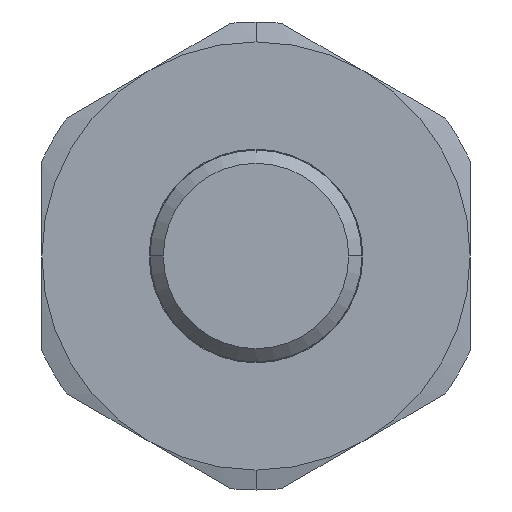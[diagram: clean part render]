
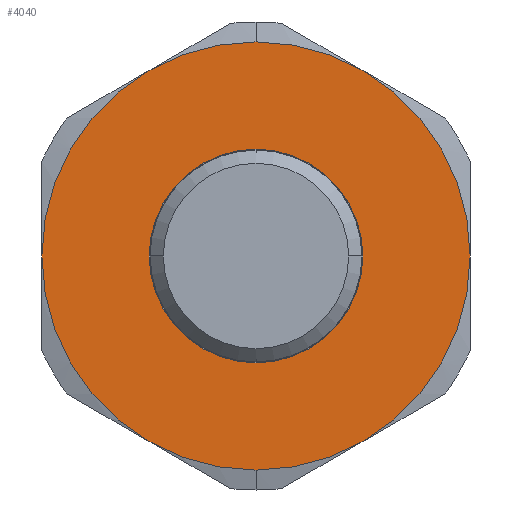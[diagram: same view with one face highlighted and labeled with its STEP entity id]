
A CAD part, left-side view. The second image highlights one B-rep face of the part: STEP entity #4040.
In plain terms, the highlighted planar face has unit normal (-1, 0, 0).
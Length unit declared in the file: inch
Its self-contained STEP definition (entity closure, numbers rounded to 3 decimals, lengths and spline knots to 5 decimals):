
#142=CARTESIAN_POINT('',(7.48906,6.74113,0.));
#143=VERTEX_POINT('',#142);
#152=CARTESIAN_POINT('',(7.48906,7.24013,0.));
#153=VERTEX_POINT('',#152);
#154=CARTESIAN_POINT('',(7.48906,6.99063,0.));
#155=DIRECTION('',(-1.0,0.0,0.0));
#156=DIRECTION('',(0.0,-1.0,0.0));
#157=AXIS2_PLACEMENT_3D('',#154,#155,#156);
#158=CIRCLE('',#157,0.2495);
#159=EDGE_CURVE('',#143,#153,#158,.T.);
#577=CARTESIAN_POINT('',(7.48906,6.99063,-0.5));
#578=VERTEX_POINT('',#577);
#585=CARTESIAN_POINT('',(7.48906,7.24063,-0.43301));
#586=VERTEX_POINT('',#585);
#587=CARTESIAN_POINT('',(7.48906,6.99063,0.));
#588=DIRECTION('',(-1.0,0.0,0.0));
#589=DIRECTION('',(0.0,0.0,-1.0));
#590=AXIS2_PLACEMENT_3D('',#587,#588,#589);
#591=CIRCLE('',#590,0.5);
#592=EDGE_CURVE('',#586,#578,#591,.T.);
#624=CARTESIAN_POINT('',(7.48906,6.99063,0.5));
#625=VERTEX_POINT('',#624);
#633=CARTESIAN_POINT('',(7.48906,7.24063,0.43301));
#634=VERTEX_POINT('',#633);
#648=CARTESIAN_POINT('',(7.48906,6.99063,0.));
#649=DIRECTION('',(-1.0,0.0,0.0));
#650=DIRECTION('',(0.0,0.0,-1.0));
#651=AXIS2_PLACEMENT_3D('',#648,#649,#650);
#652=CIRCLE('',#651,0.5);
#653=EDGE_CURVE('',#625,#634,#652,.T.);
#3971=CARTESIAN_POINT('',(7.48906,6.99063,0.));
#3972=DIRECTION('',(-1.0,0.0,0.0));
#3973=DIRECTION('',(0.0,0.0,1.0));
#3974=AXIS2_PLACEMENT_3D('',#3971,#3972,#3973);
#3975=PLANE('',#3974);
#3976=CARTESIAN_POINT('',(7.48906,7.49063,0.));
#3977=VERTEX_POINT('',#3976);
#3978=CARTESIAN_POINT('',(7.48906,6.99063,0.));
#3979=DIRECTION('',(-1.0,0.0,0.0));
#3980=DIRECTION('',(0.0,0.0,-1.0));
#3981=AXIS2_PLACEMENT_3D('',#3978,#3979,#3980);
#3982=CIRCLE('',#3981,0.5);
#3983=EDGE_CURVE('',#634,#3977,#3982,.T.);
#3984=ORIENTED_EDGE('',*,*,#3983,.T.);
#3985=CARTESIAN_POINT('',(7.48906,6.99063,0.));
#3986=DIRECTION('',(-1.0,0.0,0.0));
#3987=DIRECTION('',(0.0,0.0,-1.0));
#3988=AXIS2_PLACEMENT_3D('',#3985,#3986,#3987);
#3989=CIRCLE('',#3988,0.5);
#3990=EDGE_CURVE('',#3977,#586,#3989,.T.);
#3991=ORIENTED_EDGE('',*,*,#3990,.T.);
#3992=ORIENTED_EDGE('',*,*,#592,.T.);
#3993=CARTESIAN_POINT('',(7.48906,6.74063,-0.43301));
#3994=VERTEX_POINT('',#3993);
#3995=CARTESIAN_POINT('',(7.48906,6.99063,0.));
#3996=DIRECTION('',(-1.0,0.0,0.0));
#3997=DIRECTION('',(0.0,0.0,-1.0));
#3998=AXIS2_PLACEMENT_3D('',#3995,#3996,#3997);
#3999=CIRCLE('',#3998,0.5);
#4000=EDGE_CURVE('',#578,#3994,#3999,.T.);
#4001=ORIENTED_EDGE('',*,*,#4000,.T.);
#4002=CARTESIAN_POINT('',(7.48906,6.49063,0.));
#4003=VERTEX_POINT('',#4002);
#4004=CARTESIAN_POINT('',(7.48906,6.99063,0.));
#4005=DIRECTION('',(-1.0,0.0,0.0));
#4006=DIRECTION('',(0.0,0.0,-1.0));
#4007=AXIS2_PLACEMENT_3D('',#4004,#4005,#4006);
#4008=CIRCLE('',#4007,0.5);
#4009=EDGE_CURVE('',#3994,#4003,#4008,.T.);
#4010=ORIENTED_EDGE('',*,*,#4009,.T.);
#4011=CARTESIAN_POINT('',(7.48906,6.74063,0.43301));
#4012=VERTEX_POINT('',#4011);
#4013=CARTESIAN_POINT('',(7.48906,6.99063,0.));
#4014=DIRECTION('',(-1.0,0.0,0.0));
#4015=DIRECTION('',(0.0,0.0,-1.0));
#4016=AXIS2_PLACEMENT_3D('',#4013,#4014,#4015);
#4017=CIRCLE('',#4016,0.5);
#4018=EDGE_CURVE('',#4003,#4012,#4017,.T.);
#4019=ORIENTED_EDGE('',*,*,#4018,.T.);
#4020=CARTESIAN_POINT('',(7.48906,6.99063,0.));
#4021=DIRECTION('',(-1.0,0.0,0.0));
#4022=DIRECTION('',(0.0,0.0,-1.0));
#4023=AXIS2_PLACEMENT_3D('',#4020,#4021,#4022);
#4024=CIRCLE('',#4023,0.5);
#4025=EDGE_CURVE('',#4012,#625,#4024,.T.);
#4026=ORIENTED_EDGE('',*,*,#4025,.T.);
#4027=ORIENTED_EDGE('',*,*,#653,.T.);
#4028=EDGE_LOOP('',(#3984,#3991,#3992,#4001,#4010,#4019,#4026,#4027));
#4029=FACE_OUTER_BOUND('',#4028,.T.);
#4030=ORIENTED_EDGE('',*,*,#159,.F.);
#4031=CARTESIAN_POINT('',(7.48906,6.99063,0.));
#4032=DIRECTION('',(-1.0,0.0,0.0));
#4033=DIRECTION('',(0.0,-1.0,0.0));
#4034=AXIS2_PLACEMENT_3D('',#4031,#4032,#4033);
#4035=CIRCLE('',#4034,0.2495);
#4036=EDGE_CURVE('',#153,#143,#4035,.T.);
#4037=ORIENTED_EDGE('',*,*,#4036,.F.);
#4038=EDGE_LOOP('',(#4030,#4037));
#4039=FACE_BOUND('',#4038,.T.);
#4040=ADVANCED_FACE('',(#4029,#4039),#3975,.T.);
